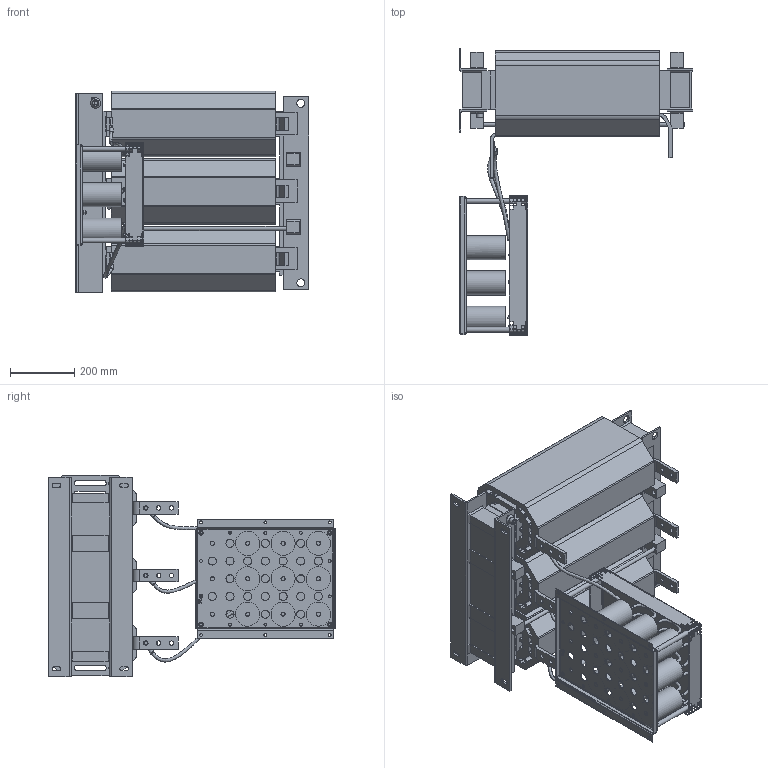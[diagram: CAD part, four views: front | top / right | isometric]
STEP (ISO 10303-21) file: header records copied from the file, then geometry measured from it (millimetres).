
FILE_DESCRIPTION((''),'2;1');
FILE_NAME('C:\Users\Samuel.Meier\Desktop\JINGLI\FN5040-660-99\FN5040-660-99.stp','2014-10-22T09:25:31',('samuel.meier'),(''),'Autodesk Inventor 2013','Autodesk Inventor 2013','');
FILE_SCHEMA(('AUTOMOTIVE_DESIGN { 1 0 10303 214 1 1 1 1 }'));
Length unit declared in the file: millimetre
Products named in the file (4): FN5040-660-99; ASSEMBLY; CABLES; CAPS
Assembly tree (3 placements, depth 2):
  FN5040-660-99
    ASSEMBLY
    CABLES
    CAPS
Bounding box: 727 x 891.91 x 626.98 mm (x, y, z)
Volume: 5822889.1 mm3; surface area: 7533543.5 mm2
Topology: 1 solids, 28 shells, 2075 faces, 6263 edges, 4099 vertices
Faces by surface type: plane 1383, cylinder 607, bspline 41, torus 24, cone 20
Full cylindrical faces by diameter (mm): 6 x2, 6.1 x1, 6.4 x1, 6.647 x8, 7.9 x1, 8 x9, 8.5 x3, 9 x20, 10 x5, 10.5 x3, 11.8 x1, 12 x15, 13 x13, 13.5 x15, 14 x7, 15 x4, 20 x1, 25 x27, 75 x9
Entity records: 82363 total; most frequent: CARTESIAN_POINT 23163, ORIENTED_EDGE 12050, DIRECTION 11344, EDGE_CURVE 6043, VECTOR 4628, LINE 4628, VERTEX_POINT 4047, AXIS2_PLACEMENT_3D 3358
